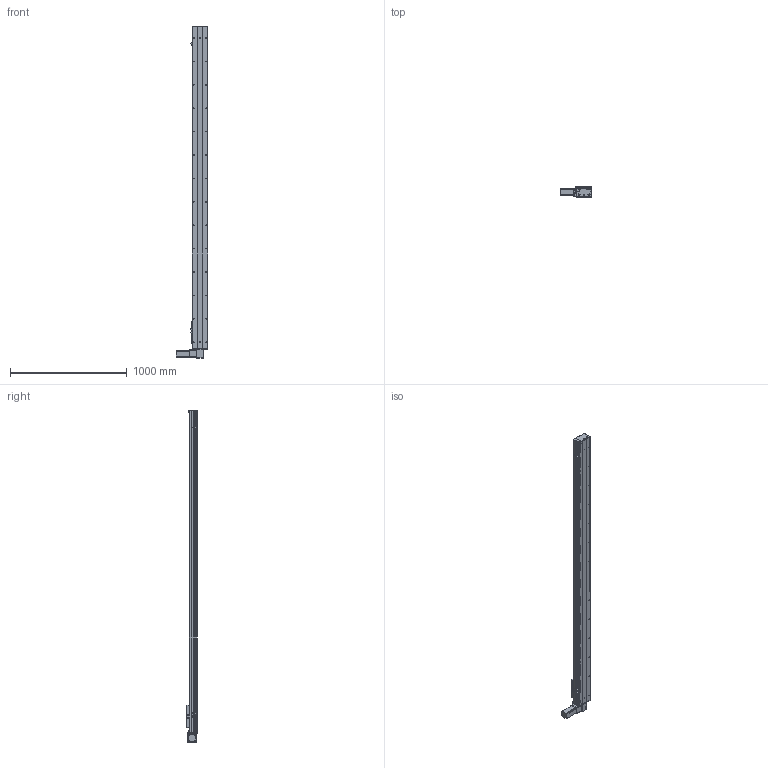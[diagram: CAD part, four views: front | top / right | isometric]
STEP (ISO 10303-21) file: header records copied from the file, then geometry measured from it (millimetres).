
FILE_DESCRIPTION (( 'STEP AP203' ), '1' );
FILE_NAME ('Y135CB-D90-S2450-BD-P400W.STEP', '2020-02-19T06:14:00', ( '微软用户' ), ( '微软中国' ), 'SwSTEP 2.0', 'SolidWorks 2017', '' );
FILE_SCHEMA (( 'CONFIG_CONTROL_DESIGN' ));
Length unit declared in the file: millimetre
Products named in the file (16): 135CB--詩湍-CE; Y100-135俋离換覜ん--; 135CB---遴掛极.-; Y135C-陔俋离換覜結え-; 35CB---喘謫眊楊擘啣; Y135CB-耜裔; 5C--俋欶; 0B-埴倛裔啣; C-雄赽釱--; 0B-源倛裔啣; Y10B--々湍喘謫眊--666; san松下电机400不带刹车----; 0B-薊粣ん眊; 5CB --掛极耜裔啣-; Y135CB-D90-S2450-BD-P400W; C-詩湍揤踡え-陔
Assembly tree (19 placements, depth 2):
  Y135CB-D90-S2450-BD-P400W
    Y135CB-耜裔
    135CB---遴掛极.-
    35CB---喘謫眊楊擘啣
    0B-埴倛裔啣
    0B-源倛裔啣
    san松下电机400不带刹车----
    5CB --掛极耜裔啣-  x2
    C-詩湍揤踡え-陔  x2
    135CB--詩湍-CE
    Y100-135俋离換覜ん--  x3
    Y135C-陔俋离換覜結え-
    5C--俋欶
    C-雄赽釱--
    Y10B--々湍喘謫眊--666
    0B-薊粣ん眊
Bounding box: 272 x 91 x 2838 mm (x, y, z)
Volume: 8152370.6 mm3; surface area: 3184128.8 mm2
Topology: 19 solids, 19 shells, 883 faces, 2392 edges, 1584 vertices
Faces by surface type: cylinder 452, plane 415, cone 16
Entity records: 27420 total; most frequent: DIRECTION 4572, CARTESIAN_POINT 4555, ORIENTED_EDGE 4260, EDGE_CURVE 2130, AXIS2_PLACEMENT_3D 1685, VERTEX_POINT 1412, LINE 1202, VECTOR 1202
